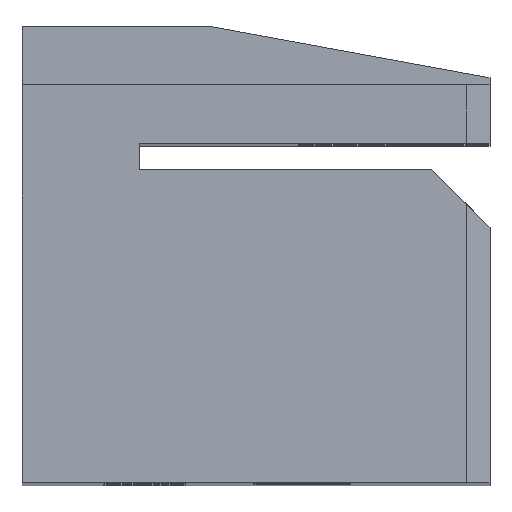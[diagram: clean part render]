
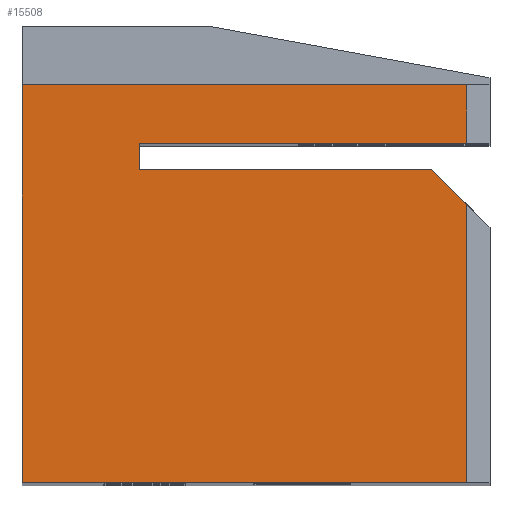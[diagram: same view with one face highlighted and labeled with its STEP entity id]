
A CAD part, top view. The second image highlights one B-rep face of the part: STEP entity #15508.
In plain terms, the highlighted planar face has unit normal (0, 0, 1).
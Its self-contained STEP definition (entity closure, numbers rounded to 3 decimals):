
#1322=PLANE('',#16407);
#1766=FACE_OUTER_BOUND('',#2641,.T.);
#2641=EDGE_LOOP('',(#10793,#10794,#10795,#10796,#10797,#10798,#10799,#10800,
#10801));
#3614=LINE('',#19604,#5153);
#3631=LINE('',#19637,#5170);
#3632=LINE('',#19641,#5171);
#3633=LINE('',#19642,#5172);
#3634=LINE('',#19644,#5173);
#3635=LINE('',#19646,#5174);
#3636=LINE('',#19648,#5175);
#3637=LINE('',#19650,#5176);
#3638=LINE('',#19651,#5177);
#5153=VECTOR('',#17010,1.);
#5170=VECTOR('',#17037,1.);
#5171=VECTOR('',#17040,1.);
#5172=VECTOR('',#17041,1.);
#5173=VECTOR('',#17042,1.);
#5174=VECTOR('',#17043,1.);
#5175=VECTOR('',#17044,1.);
#5176=VECTOR('',#17045,1.);
#5177=VECTOR('',#17046,1.);
#6739=VERTEX_POINT('',#19601);
#6740=VERTEX_POINT('',#19603);
#6751=VERTEX_POINT('',#19635);
#6752=VERTEX_POINT('',#19639);
#6753=VERTEX_POINT('',#19640);
#6754=VERTEX_POINT('',#19643);
#6755=VERTEX_POINT('',#19645);
#6756=VERTEX_POINT('',#19647);
#6757=VERTEX_POINT('',#19649);
#8338=EDGE_CURVE('',#6740,#6739,#3614,.T.);
#8355=EDGE_CURVE('',#6751,#6740,#3631,.T.);
#8356=EDGE_CURVE('',#6752,#6753,#3632,.T.);
#8357=EDGE_CURVE('',#6752,#6751,#3633,.T.);
#8358=EDGE_CURVE('',#6739,#6754,#3634,.T.);
#8359=EDGE_CURVE('',#6754,#6755,#3635,.T.);
#8360=EDGE_CURVE('',#6755,#6756,#3636,.T.);
#8361=EDGE_CURVE('',#6756,#6757,#3637,.T.);
#8362=EDGE_CURVE('',#6753,#6757,#3638,.T.);
#10793=ORIENTED_EDGE('',*,*,#8356,.F.);
#10794=ORIENTED_EDGE('',*,*,#8357,.T.);
#10795=ORIENTED_EDGE('',*,*,#8355,.T.);
#10796=ORIENTED_EDGE('',*,*,#8338,.T.);
#10797=ORIENTED_EDGE('',*,*,#8358,.T.);
#10798=ORIENTED_EDGE('',*,*,#8359,.T.);
#10799=ORIENTED_EDGE('',*,*,#8360,.T.);
#10800=ORIENTED_EDGE('',*,*,#8361,.T.);
#10801=ORIENTED_EDGE('',*,*,#8362,.F.);
#15508=ADVANCED_FACE('',(#1766),#1322,.T.);
#16407=AXIS2_PLACEMENT_3D('',#19638,#17038,#17039);
#17010=DIRECTION('',(1.,0.,0.));
#17037=DIRECTION('',(0.,1.,0.));
#17038=DIRECTION('center_axis',(0.,0.,1.));
#17039=DIRECTION('ref_axis',(1.,0.,0.));
#17040=DIRECTION('',(0.707,-0.707,0.));
#17041=DIRECTION('',(-1.,0.,0.));
#17042=DIRECTION('',(0.,1.,0.));
#17043=DIRECTION('',(-1.,0.,0.));
#17044=DIRECTION('',(0.,-1.,0.));
#17045=DIRECTION('',(1.,0.,0.));
#17046=DIRECTION('',(0.,-1.,0.));
#19601=CARTESIAN_POINT('',(19.,14.5,76.));
#19603=CARTESIAN_POINT('',(5.,14.5,76.));
#19604=CARTESIAN_POINT('',(5.,14.5,76.));
#19635=CARTESIAN_POINT('',(5.,13.4,76.));
#19637=CARTESIAN_POINT('',(5.,13.4,76.));
#19638=CARTESIAN_POINT('Origin',(10.563,10.072,76.));
#19639=CARTESIAN_POINT('',(17.5,13.4,76.));
#19640=CARTESIAN_POINT('',(19.,11.9,76.));
#19641=CARTESIAN_POINT('',(17.223,13.677,76.));
#19642=CARTESIAN_POINT('',(20.,13.4,76.));
#19643=CARTESIAN_POINT('',(19.,17.,76.));
#19644=CARTESIAN_POINT('',(19.,14.5,76.));
#19645=CARTESIAN_POINT('',(0.,17.,76.));
#19646=CARTESIAN_POINT('',(20.,17.,76.));
#19647=CARTESIAN_POINT('',(0.,0.,76.));
#19648=CARTESIAN_POINT('',(0.,17.,76.));
#19649=CARTESIAN_POINT('',(19.,0.,76.));
#19650=CARTESIAN_POINT('',(0.,0.,76.));
#19651=CARTESIAN_POINT('',(19.,10.9,76.));
